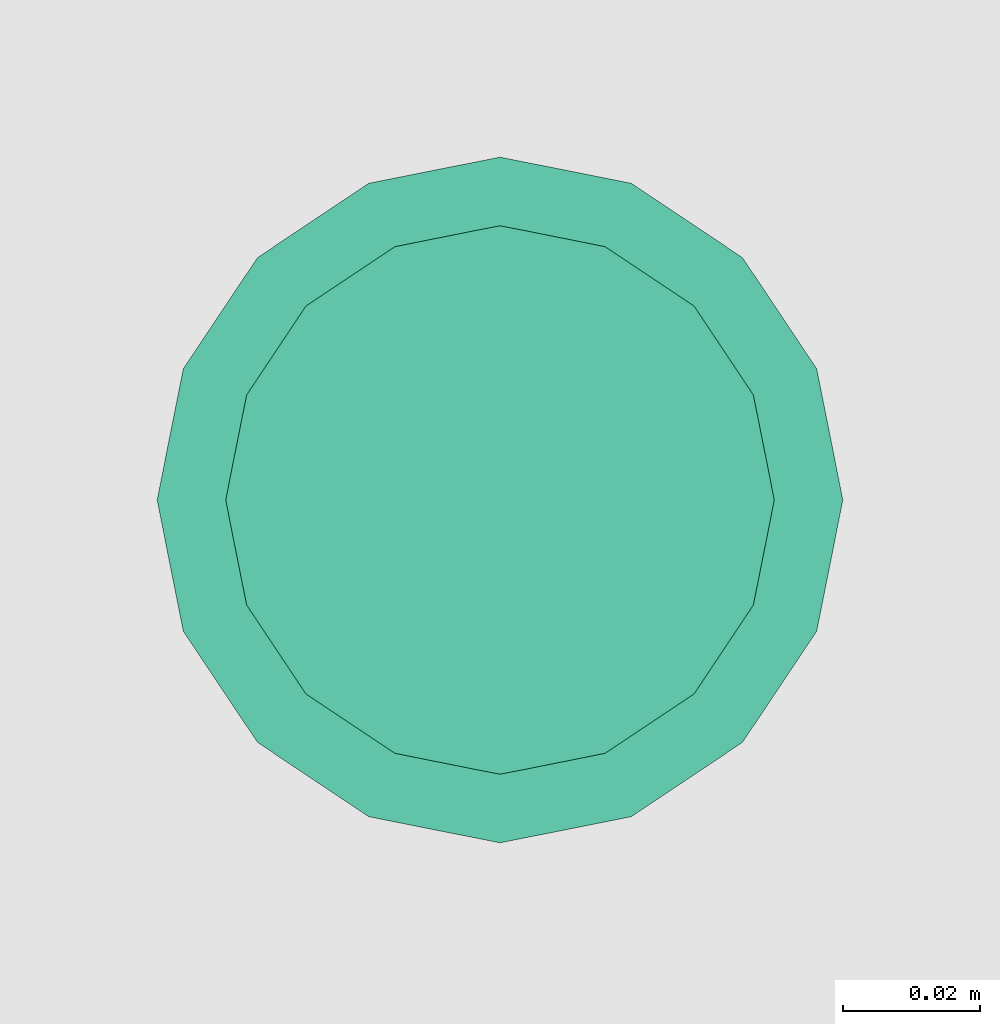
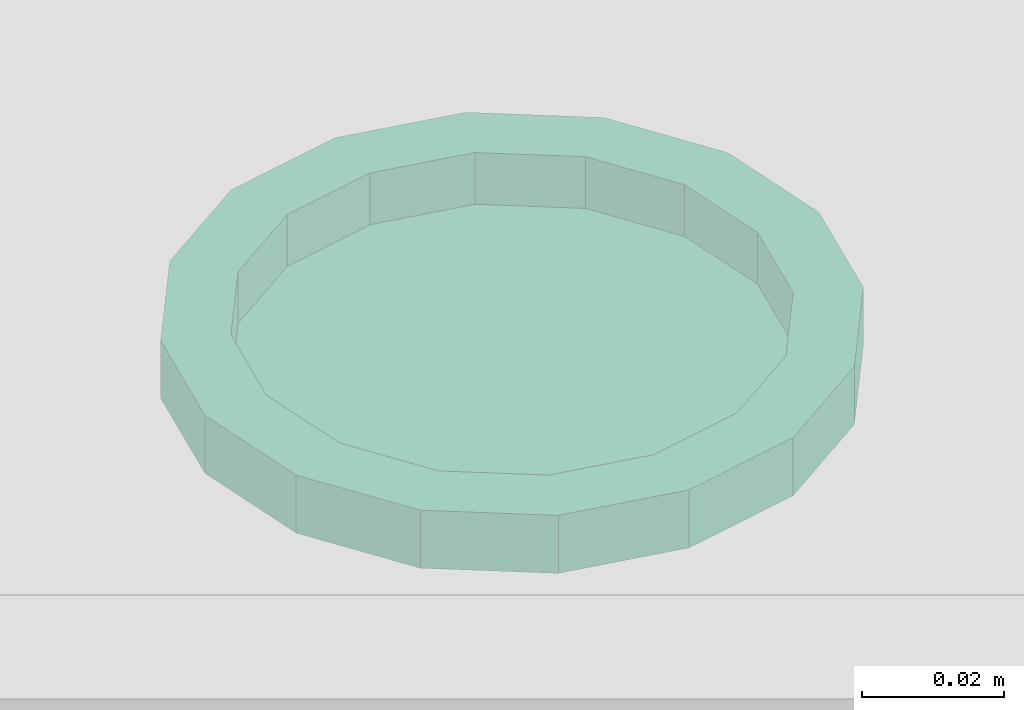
# One storey, part 222 of 347: 1 flow terminal.
"""IFC2X3 building model written with IfcOpenShell, lengths in millimetres."""

from ifc_helpers import new_model, entity, si_unit, converted_unit, derived_unit, money_unit, direction, frame, origin_with_axes, place, context, subcontext, project, spatial, open_shell, faceted_brep, surface_model, source, transform, mapped, type_object, type_shapes, element, save


model = new_model("IFC2X3")

# Units and contexts
model_context = context("Model", 3, precision=0.01, world=origin_with_axes(), true_north=direction((0.0, 1.0)))
plan_context = context("Plan", 3, precision=0.01, world=origin_with_axes(), true_north=direction((0.0, 1.0)))
body_context = subcontext(model_context, "Body", "Model", "MODEL_VIEW")
ifc_project = project(units=[si_unit("LENGTHUNIT", "METRE", prefix="MILLI"), si_unit("AREAUNIT", "SQUARE_METRE"), si_unit("VOLUMEUNIT", "CUBIC_METRE"), converted_unit("PLANEANGLEUNIT", "DEGREE", entity("IfcPlaneAngleMeasure", 0.0174532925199), si_unit("PLANEANGLEUNIT", "RADIAN"), dimensions=[0, 0, 0, 0, 0, 0, 0]), money_unit("EUR"), converted_unit("TIMEUNIT", "Year", entity("IfcTimeMeasure", 31556926.0), si_unit("TIMEUNIT", "SECOND"), dimensions=[0, 0, 1, 0, 0, 0, 0]), si_unit("MASSUNIT", "GRAM", prefix="KILO"), si_unit("THERMODYNAMICTEMPERATUREUNIT", "DEGREE_CELSIUS"), si_unit("LUMINOUSINTENSITYUNIT", "LUMEN"), si_unit("ENERGYUNIT", "JOULE", prefix="MEGA"), derived_unit("THERMALCONDUCTANCEUNIT", [(si_unit("POWERUNIT", "WATT"), 1), (si_unit("LENGTHUNIT", "METRE"), -1), (si_unit("THERMODYNAMICTEMPERATUREUNIT", "KELVIN"), -1)]), derived_unit("SPECIFICHEATCAPACITYUNIT", [(si_unit("ENERGYUNIT", "JOULE"), 1), (si_unit("MASSUNIT", "GRAM", prefix="KILO"), -1), (si_unit("THERMODYNAMICTEMPERATUREUNIT", "KELVIN"), -1)]), derived_unit("MASSDENSITYUNIT", [(si_unit("MASSUNIT", "GRAM", prefix="KILO"), 1), (si_unit("VOLUMEUNIT", "CUBIC_METRE"), -1)])], contexts=[model_context, plan_context])

# Site, building, storey
site_placement = place(None, origin_with_axes())
site = spatial("IfcSite", under=ifc_project, at=site_placement, Name="Site", CompositionType="ELEMENT")
building_placement = place(site_placement, origin_with_axes())
building = spatial("IfcBuilding", under=site, at=building_placement, Name="Naam gebouw", CompositionType="ELEMENT")
storey_placement = place(building_placement, origin_with_axes())
storey = spatial("IfcBuildingStorey", under=building, at=storey_placement, Name="begane grond", CompositionType="ELEMENT", Elevation=0.0)

# Flow terminal
lamp_type = type_object("IfcLampType", Name="Spot plafond 01 25", PredefinedType="NOTDEFINED")
shared_shape = source(origin_with_axes(), body_context, "Body", "SurfaceModel", [
    faceted_brep([(50.0, 0.0, -10.0), (46.1939766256, 19.1341716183, -10.0), (46.1939766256, 19.1341716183, 0.0), (50.0, 0.0, 0.0), (46.1939766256, -19.1341716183, -10.0), (35.3553390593, -35.3553390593, -10.0), (19.1341716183, -46.1939766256, -10.0), (0.0, -50.0, -10.0), (-19.1341716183, -46.1939766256, -10.0), (-35.3553390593, -35.3553390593, -10.0), (-46.1939766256, -19.1341716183, -10.0), (-50.0, 0.0, -10.0), (-46.1939766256, 19.1341716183, -10.0), (-35.3553390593, 35.3553390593, -10.0), (-19.1341716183, 46.1939766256, -10.0), (0.0, 50.0, -10.0), (19.1341716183, 46.1939766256, -10.0), (35.3553390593, 35.3553390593, -10.0), (40.0, 0.0, -10.0), (36.9551813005, 15.3073372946, -10.0), (28.2842712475, 28.2842712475, -10.0), (15.3073372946, 36.9551813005, -10.0), (0.0, 40.0, -10.0), (-15.3073372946, 36.9551813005, -10.0), (-28.2842712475, 28.2842712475, -10.0), (-36.9551813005, 15.3073372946, -10.0), (-40.0, 0.0, -10.0), (-36.9551813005, -15.3073372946, -10.0), (-28.2842712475, -28.2842712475, -10.0), (-15.3073372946, -36.9551813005, -10.0), (0.0, -40.0, -10.0), (15.3073372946, -36.9551813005, -10.0), (28.2842712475, -28.2842712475, -10.0), (36.9551813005, -15.3073372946, -10.0), (35.3553390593, 35.3553390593, 0.0), (19.1341716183, 46.1939766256, 0.0), (0.0, 50.0, 0.0), (-19.1341716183, 46.1939766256, 0.0), (-35.3553390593, 35.3553390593, 0.0), (-46.1939766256, 19.1341716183, 0.0), (-50.0, 0.0, 0.0), (-46.1939766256, -19.1341716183, 0.0), (-35.3553390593, -35.3553390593, 0.0), (-19.1341716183, -46.1939766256, 0.0), (0.0, -50.0, 0.0), (19.1341716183, -46.1939766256, 0.0), (35.3553390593, -35.3553390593, 0.0), (46.1939766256, -19.1341716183, 0.0), (40.0, 0.0, 0.0), (36.9551813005, -15.3073372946, 0.0), (28.2842712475, -28.2842712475, 0.0), (15.3073372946, -36.9551813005, 0.0), (0.0, -40.0, 0.0), (-15.3073372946, -36.9551813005, 0.0), (-28.2842712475, -28.2842712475, 0.0), (-36.9551813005, -15.3073372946, 0.0), (-40.0, 0.0, 0.0), (-36.9551813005, 15.3073372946, 0.0), (-28.2842712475, 28.2842712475, 0.0), (-15.3073372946, 36.9551813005, 0.0), (0.0, 40.0, 0.0), (15.3073372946, 36.9551813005, 0.0), (28.2842712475, 28.2842712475, 0.0), (36.9551813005, 15.3073372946, 0.0)], [[[0, 1, 2, 3]], [[0, 4, 5, 6, 7, 8, 9, 10, 11, 12, 13, 14, 15, 16, 17, 1], [18, 19, 20, 21, 22, 23, 24, 25, 26, 27, 28, 29, 30, 31, 32, 33]], [[1, 17, 34, 2]], [[3, 2, 34, 35, 36, 37, 38, 39, 40, 41, 42, 43, 44, 45, 46, 47], [48, 49, 50, 51, 52, 53, 54, 55, 56, 57, 58, 59, 60, 61, 62, 63]], [[4, 0, 3, 47]], [[5, 4, 47, 46]], [[6, 5, 46, 45]], [[7, 6, 45, 44]], [[8, 7, 44, 43]], [[9, 8, 43, 42]], [[10, 9, 42, 41]], [[11, 10, 41, 40]], [[12, 11, 40, 39]], [[13, 12, 39, 38]], [[14, 13, 38, 37]], [[15, 14, 37, 36]], [[16, 15, 36, 35]], [[17, 16, 35, 34]], [[19, 18, 48, 63]], [[20, 19, 63, 62]], [[21, 20, 62, 61]], [[22, 21, 61, 60]], [[23, 22, 60, 59]], [[24, 23, 59, 58]], [[25, 24, 58, 57]], [[26, 25, 57, 56]], [[27, 26, 56, 55]], [[28, 27, 55, 54]], [[29, 28, 54, 53]], [[30, 29, 53, 52]], [[31, 30, 52, 51]], [[32, 31, 51, 50]], [[33, 32, 50, 49]], [[18, 33, 49, 48]]]),
    surface_model("IfcShellBasedSurfaceModel", [(40.0, 0.0, -8.9), (36.9551813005, -15.3073372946, -8.9), (28.2842712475, -28.2842712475, -8.9), (15.3073372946, -36.9551813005, -8.9), (0.0, -40.0, -8.9), (-15.3073372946, -36.9551813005, -8.9), (-28.2842712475, -28.2842712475, -8.9), (-36.9551813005, -15.3073372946, -8.9), (-40.0, 0.0, -8.9), (-36.9551813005, 15.3073372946, -8.9), (-28.2842712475, 28.2842712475, -8.9), (-15.3073372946, 36.9551813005, -8.9), (0.0, 40.0, -8.9), (15.3073372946, 36.9551813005, -8.9), (28.2842712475, 28.2842712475, -8.9), (36.9551813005, 15.3073372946, -8.9)], [open_shell([[[0, 1, 2, 3, 4, 5, 6, 7, 8, 9, 10, 11, 12, 13, 14, 15]]])]),
])
type_shapes(lamp_type, [shared_shape])
flow_terminal_placement = place(storey_placement, frame((33995.0000003, 26960.0, 2600.0), z_axis=(0.0, 0.0, 1.0), x_axis=(1.0, 0.0, 0.0)))
element("IfcFlowTerminal", 1, at=flow_terminal_placement, inside=storey, type_object=lamp_type, Name="63_Lamp-x", ObjectType="Lamp", context=body_context, shape_type="MappedRepresentation", body=[
    mapped(shared_shape, transform((0.0, 0.0, 0.0))),
])

save(model, "model.ifc")
